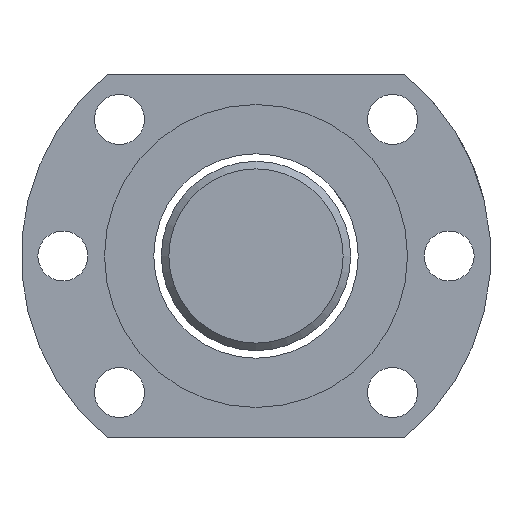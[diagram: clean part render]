
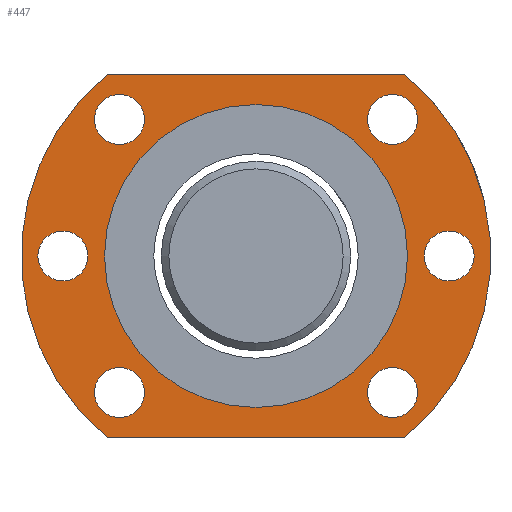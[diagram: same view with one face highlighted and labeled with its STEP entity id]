
A CAD part, left-side view. The second image highlights one B-rep face of the part: STEP entity #447.
In plain terms, the highlighted planar face has unit normal (-1, 0, 0).
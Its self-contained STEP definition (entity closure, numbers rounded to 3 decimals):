
#63=LINE('',#709,#71);
#68=LINE('',#750,#76);
#71=VECTOR('',#591,1000.);
#76=VECTOR('',#604,1000.);
#81=PLANE('',#518);
#121=ORIENTED_EDGE('',*,*,#186,.T.);
#122=ORIENTED_EDGE('',*,*,#190,.T.);
#123=ORIENTED_EDGE('',*,*,#192,.F.);
#124=ORIENTED_EDGE('',*,*,#194,.F.);
#125=ORIENTED_EDGE('',*,*,#196,.F.);
#126=ORIENTED_EDGE('',*,*,#212,.T.);
#127=ORIENTED_EDGE('',*,*,#208,.T.);
#128=ORIENTED_EDGE('',*,*,#207,.T.);
#129=ORIENTED_EDGE('',*,*,#197,.T.);
#130=ORIENTED_EDGE('',*,*,#213,.F.);
#131=ORIENTED_EDGE('',*,*,#188,.T.);
#186=EDGE_CURVE('',#234,#234,#274,.T.);
#188=EDGE_CURVE('',#236,#236,#276,.T.);
#190=EDGE_CURVE('',#238,#238,#278,.T.);
#192=EDGE_CURVE('',#240,#240,#280,.T.);
#194=EDGE_CURVE('',#242,#242,#282,.T.);
#196=EDGE_CURVE('',#244,#244,#284,.T.);
#197=EDGE_CURVE('',#245,#246,#63,.T.);
#207=EDGE_CURVE('',#254,#245,#286,.T.);
#208=EDGE_CURVE('',#255,#254,#68,.T.);
#212=EDGE_CURVE('',#246,#255,#288,.T.);
#213=EDGE_CURVE('',#257,#257,#289,.T.);
#234=VERTEX_POINT('',#682);
#236=VERTEX_POINT('',#687);
#238=VERTEX_POINT('',#692);
#240=VERTEX_POINT('',#697);
#242=VERTEX_POINT('',#702);
#244=VERTEX_POINT('',#707);
#245=VERTEX_POINT('',#710);
#246=VERTEX_POINT('',#711);
#254=VERTEX_POINT('',#746);
#255=VERTEX_POINT('',#751);
#257=VERTEX_POINT('',#760);
#274=CIRCLE('',#494,3.3);
#276=CIRCLE('',#497,3.3);
#278=CIRCLE('',#500,3.3);
#280=CIRCLE('',#503,3.3);
#282=CIRCLE('',#506,3.3);
#284=CIRCLE('',#509,3.3);
#286=CIRCLE('',#513,31.);
#288=CIRCLE('',#517,31.);
#289=CIRCLE('',#519,20.);
#319=EDGE_LOOP('',(#121));
#320=EDGE_LOOP('',(#122));
#321=EDGE_LOOP('',(#123));
#322=EDGE_LOOP('',(#124));
#323=EDGE_LOOP('',(#125));
#324=EDGE_LOOP('',(#126,#127,#128,#129));
#325=EDGE_LOOP('',(#130));
#326=EDGE_LOOP('',(#131));
#379=FACE_BOUND('',#319,.T.);
#380=FACE_BOUND('',#320,.T.);
#381=FACE_BOUND('',#321,.T.);
#382=FACE_BOUND('',#322,.T.);
#383=FACE_BOUND('',#323,.T.);
#384=FACE_BOUND('',#324,.T.);
#385=FACE_BOUND('',#325,.T.);
#386=FACE_BOUND('',#326,.T.);
#447=ADVANCED_FACE('',(#379,#380,#381,#382,#383,#384,#385,#386),#81,.T.);
#494=AXIS2_PLACEMENT_3D('',#681,#557,#558);
#497=AXIS2_PLACEMENT_3D('',#686,#563,#564);
#500=AXIS2_PLACEMENT_3D('',#691,#569,#570);
#503=AXIS2_PLACEMENT_3D('',#696,#575,#576);
#506=AXIS2_PLACEMENT_3D('',#701,#581,#582);
#509=AXIS2_PLACEMENT_3D('',#706,#587,#588);
#513=AXIS2_PLACEMENT_3D('',#748,#600,#601);
#517=AXIS2_PLACEMENT_3D('',#757,#611,#612);
#518=AXIS2_PLACEMENT_3D('',#758,#613,#614);
#519=AXIS2_PLACEMENT_3D('',#759,#615,#616);
#557=DIRECTION('',(1.,0.,0.));
#558=DIRECTION('',(0.,0.,1.));
#563=DIRECTION('',(1.,0.,0.));
#564=DIRECTION('',(0.,0.,1.));
#569=DIRECTION('',(1.,0.,0.));
#570=DIRECTION('',(0.,0.,1.));
#575=DIRECTION('',(-1.,0.,0.));
#576=DIRECTION('',(0.,0.,1.));
#581=DIRECTION('',(-1.,0.,0.));
#582=DIRECTION('',(0.,0.,1.));
#587=DIRECTION('',(-1.,0.,0.));
#588=DIRECTION('',(0.,0.,1.));
#591=DIRECTION('',(0.,1.,0.));
#600=DIRECTION('',(-1.,0.,0.));
#601=DIRECTION('',(0.,0.,-1.));
#604=DIRECTION('',(0.,-1.,0.));
#611=DIRECTION('',(-1.,0.,0.));
#612=DIRECTION('',(0.,0.,-1.));
#613=DIRECTION('',(-1.,0.,0.));
#614=DIRECTION('',(0.,0.,-1.));
#615=DIRECTION('',(-1.,0.,0.));
#616=DIRECTION('',(0.,0.,-1.));
#681=CARTESIAN_POINT('',(-0.225,-55.152,25.78));
#682=CARTESIAN_POINT('',(-0.225,-55.152,29.08));
#686=CARTESIAN_POINT('',(-0.225,-62.621,7.749));
#687=CARTESIAN_POINT('',(-0.225,-62.621,11.049));
#691=CARTESIAN_POINT('',(-0.225,-55.152,-10.282));
#692=CARTESIAN_POINT('',(-0.225,-55.152,-6.982));
#696=CARTESIAN_POINT('',(-0.225,-19.089,-10.282));
#697=CARTESIAN_POINT('',(-0.225,-19.089,-6.982));
#701=CARTESIAN_POINT('',(-0.225,-19.089,25.78));
#702=CARTESIAN_POINT('',(-0.225,-19.089,29.08));
#706=CARTESIAN_POINT('',(-0.225,-11.621,7.749));
#707=CARTESIAN_POINT('',(-0.225,-11.621,11.049));
#709=CARTESIAN_POINT('',(-0.225,-56.742,31.749));
#710=CARTESIAN_POINT('',(-0.225,-56.742,31.749));
#711=CARTESIAN_POINT('',(-0.225,-17.499,31.749));
#746=CARTESIAN_POINT('',(-0.225,-56.742,-16.251));
#748=CARTESIAN_POINT('',(-0.225,-37.121,7.749));
#750=CARTESIAN_POINT('',(-0.225,-17.499,-16.251));
#751=CARTESIAN_POINT('',(-0.225,-17.499,-16.251));
#757=CARTESIAN_POINT('',(-0.225,-37.121,7.749));
#758=CARTESIAN_POINT('',(-0.225,-37.121,7.749));
#759=CARTESIAN_POINT('',(-0.225,-37.121,7.749));
#760=CARTESIAN_POINT('',(-0.225,-37.121,-12.251));
